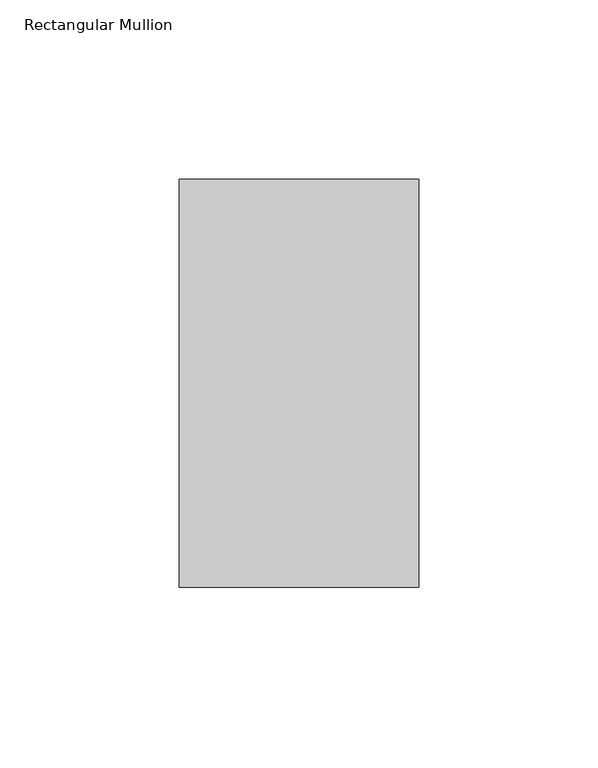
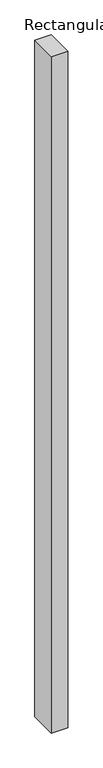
"""IFC4 building model written with IfcOpenShell, lengths in millimetres: member geometry, Rectangular Mullion : 30_rechthoek."""

from ifc_helpers import new_model, si_unit, frame, origin, place, context, project, spatial, polyline, outline, extrude, source, transform, mapped, element, save


def rectangular_mullion_53f27373(model_context):
    return source(origin(), model_context, "Body", "SweptSolid", [
        extrude(outline(polyline([(33.5, 57.0), (33.5, -57.0), (-33.5, -57.0), (-33.5, 57.0), (33.5, 57.0)])), frame((0.0, 0.0, -2899.8333333), z_axis=(0.0, 0.0, 1.0), x_axis=(1.0, 0.0, 0.0)), (0.0, 0.0, 1.0), 2899.8333333),
    ])


if __name__ == "__main__":
    model = new_model("IFC4")
    model_context = context("Model", 3, world=origin())
    ifc_project = project(units=[si_unit("LENGTHUNIT", "METRE", prefix="MILLI")], contexts=[model_context])
    site = spatial("IfcSite", under=ifc_project)
    building = spatial("IfcBuilding", under=site)
    placement = place(None, origin())
    rectangular_mullion_shape = rectangular_mullion_53f27373(model_context)
    element("IfcMember", 1, ObjectType="Rectangular Mullion : 30_rechthoek", at=placement, inside=building, context=model_context, shape_type="MappedRepresentation", body=[
        mapped(rectangular_mullion_shape, transform((0.0, 0.0, 0.0), x_axis=(1.0, 0.0, 0.0), y_axis=(0.0, 1.0, 0.0), z_axis=(0.0, 0.0, 1.0))),
    ])
    save(model, "model.ifc")
